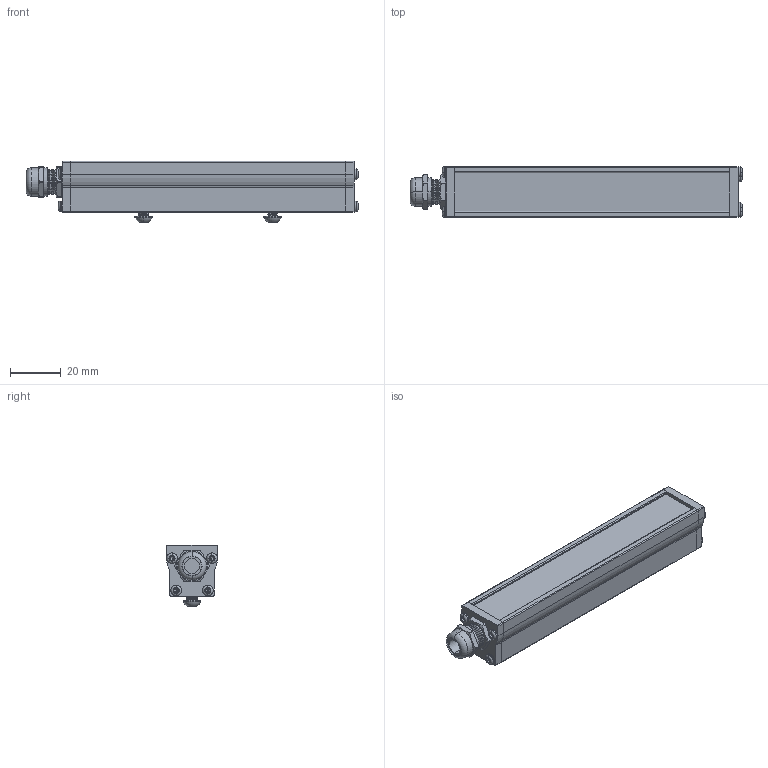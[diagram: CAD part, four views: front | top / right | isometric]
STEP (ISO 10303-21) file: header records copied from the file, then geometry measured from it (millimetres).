
FILE_DESCRIPTION (( 'STEP AP214' ), '1' );
FILE_NAME ('AL126 _NONSEALED__AL12604.stp', '2021-04-29T14:24:54', ( '' ), ( '' ), 'SwSTEP 2.0', 'SolidWorks 2018', '' );
FILE_SCHEMA (( 'AUTOMOTIVE_DESIGN' ));
Length unit declared in the file: inch
Products named in the file (15): BH-M4x6; 10mm Ai; 091052 (116 126); 091064_Model_Dome Fittings_Thread Type and Size(Dome)_M10 x 1.5_Hazardous Location-Explosive Proof(ATEX and EExe Versions)_No_; 093474_093474; 10mm Advanced illumination; HN-M4_90592A016; 10mm Label (116 126)_Default<As Machined>; 090889-XX_090889-04; 090877-XX_090877-04; 090875; 093469_093469; 10mm Swish_Default<As Machined>; AL126 _NONSEALED__AL12604; 090876
Assembly tree (24 placements, depth 3):
  AL126 _NONSEALED__AL12604
    090889-XX_090889-04
    090877-XX_090877-04
    090875
    090876
    093474_093474  x8
    093469_093469  x2
    091064_Model_Dome Fittings_Thread Type and Size(Dome)_M10 x 1.5_Hazardous Location-Explosive Proof(ATEX and EExe Versions)_No_
    HN-M4_90592A016  x2
    BH-M4x6  x2
    091052 (116 126)
      10mm Label (116 126)_Default<As Machined>
      10mm Ai
      10mm Swish_Default<As Machined>
      10mm Advanced illumination
Bounding box: 130.73 x 20.02 x 24.1 mm (x, y, z)
Volume: 18167.6 mm3; surface area: 26824.9 mm2
Topology: 48 solids, 48 shells, 1877 faces, 4840 edges, 3010 vertices
Faces by surface type: cylinder 934, plane 401, cone 362, bspline 120, torus 60
Entity records: 30293 total; most frequent: CARTESIAN_POINT 10456, ORIENTED_EDGE 4076, DIRECTION 3580, EDGE_CURVE 2038, VERTEX_POINT 1298, AXIS2_PLACEMENT_3D 1276, VECTOR 1028, LINE 1028
